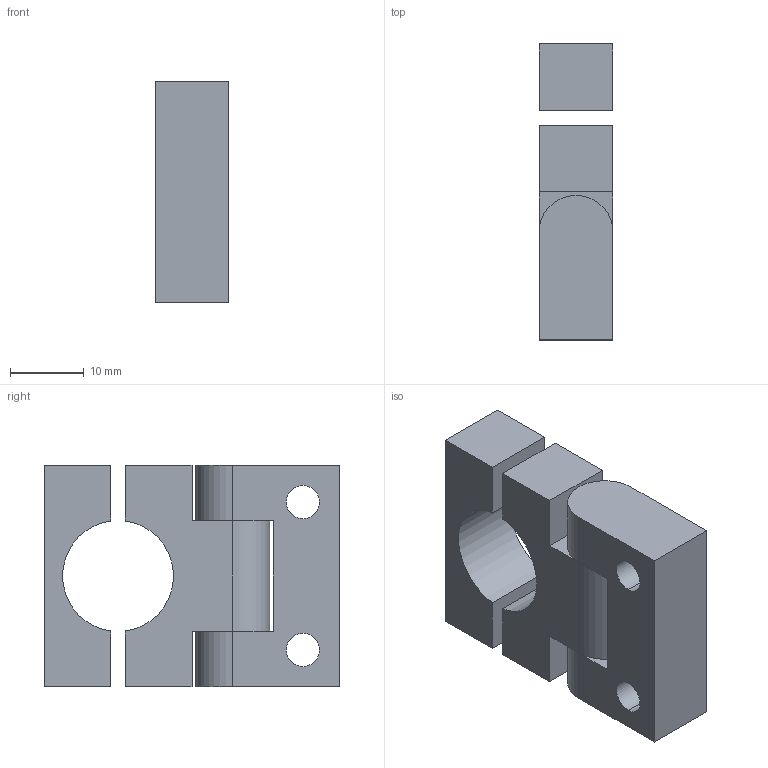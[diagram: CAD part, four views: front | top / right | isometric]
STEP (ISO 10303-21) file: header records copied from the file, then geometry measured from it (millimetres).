
FILE_DESCRIPTION (( 'STEP AP203' ), '1' );
FILE_NAME ('B2-Kipp.STEP', '2011-12-20T10:46:12', ( '' ), ( '' ), 'SwSTEP 2.0', 'SolidWorks 2010', '' );
FILE_SCHEMA (( 'CONFIG_CONTROL_DESIGN' ));
Length unit declared in the file: millimetre
Products named in the file (3): B2-Kipp_Roh_mec005215 Oberteil; B2-Kipp; B2-Kipp_Roh_mec005215 Unterteil
Assembly tree (2 placements, depth 2):
  B2-Kipp
    B2-Kipp_Roh_mec005215 Oberteil
    B2-Kipp_Roh_mec005215 Unterteil
Bounding box: 10 x 40 x 30 mm (x, y, z)
Volume: 8601 mm3; surface area: 5363.2 mm2
Topology: 3 solids, 3 shells, 42 faces, 102 edges, 68 vertices
Faces by surface type: plane 27, cylinder 15
Entity records: 1551 total; most frequent: DIRECTION 226, CARTESIAN_POINT 217, ORIENTED_EDGE 204, EDGE_CURVE 102, AXIS2_PLACEMENT_3D 77, VECTOR 72, LINE 72, VERTEX_POINT 68
